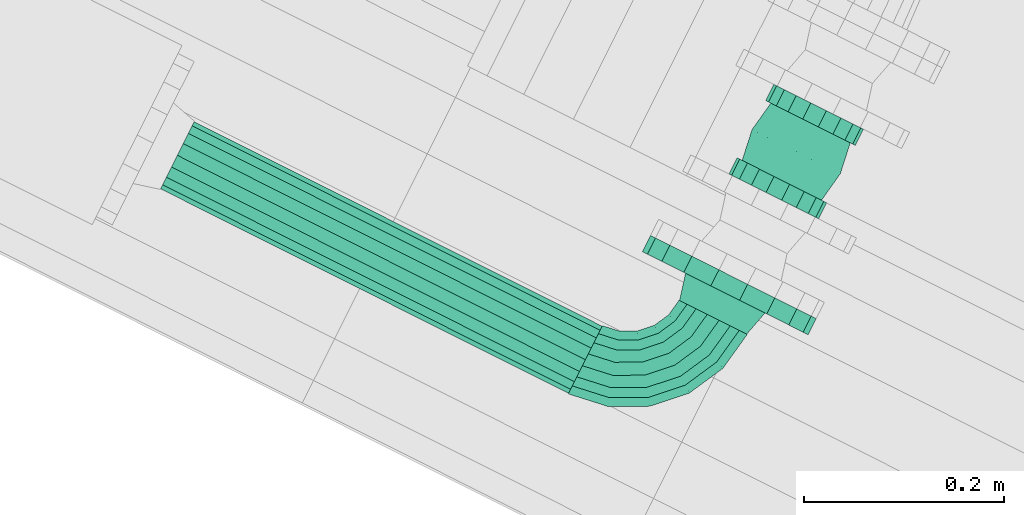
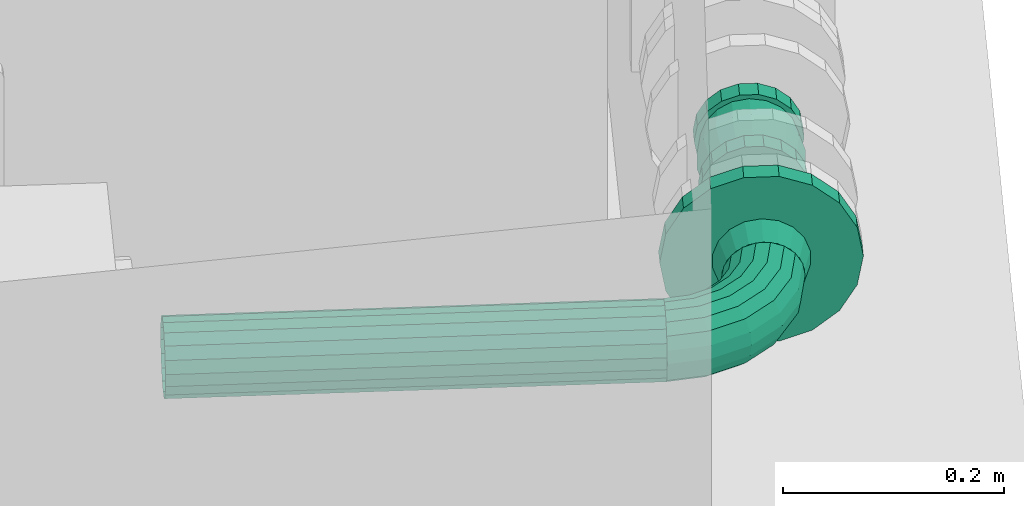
# One storey, part 55 of 206: 3 flow segments, 1 flow fitting.
"""IFC2X3 building model written with IfcOpenShell, lengths in metres."""

from ifc_helpers import new_model, si_unit, derived_unit, direction, frame, origin, place, context, subcontext, project, spatial, face_set, surface_model, source, transform, mapped, material, type_object, type_shapes, element, save


model = new_model("IFC2X3")

# Units and contexts
model_context = context("Model", 3, precision=5.2338327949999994e-05, world=origin(), true_north=direction((0.0, 1.0)))
body_context = subcontext(model_context, "Body", "Model", "MODEL_VIEW")
ifc_project = project(units=[si_unit("LENGTHUNIT", "METRE"), si_unit("AREAUNIT", "SQUARE_METRE"), si_unit("VOLUMEUNIT", "CUBIC_METRE"), si_unit("MASSUNIT", "GRAM", prefix="KILO"), si_unit("PLANEANGLEUNIT", "RADIAN"), derived_unit("THERMALTRANSMITTANCEUNIT", [(si_unit("MASSUNIT", "GRAM", prefix="KILO"), 1), (si_unit("THERMODYNAMICTEMPERATUREUNIT", "KELVIN"), -1), (si_unit("TIMEUNIT", "SECOND"), -3)])], contexts=[model_context])

# Site, building, storey
site_placement = place(None, frame((0.0, 0.0, 0.0), z_axis=(0.0, 0.0, 1.0), x_axis=(0.8939966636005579, -0.4480736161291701, 0.0)))
site = spatial("IfcSite", under=ifc_project, at=site_placement, Name="Default", CompositionType="ELEMENT")
building_placement = place(site_placement, origin())
building = spatial("IfcBuilding", under=site, at=building_placement, CompositionType="ELEMENT")
storey_placement = place(building_placement, origin())
storey = spatial("IfcBuildingStorey", under=building, at=storey_placement, Name="Erdgeschoss", CompositionType="ELEMENT", Elevation=0.0)

# Flow segment
ifc_material = material(Name="IfcSurfaceStyle #352577")
distribution_element_type_1 = type_object("IfcDistributionElementType", Name="Rohrbogen 604500:Rohrbogen 604500", material=ifc_material)
shared_shape_1 = source(origin(), body_context, "Body", "SurfaceModel", [
    surface_model("IfcFaceBasedSurfaceModel", [(27.483692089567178, 4.922958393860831, 0.869999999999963), (27.481397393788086, 4.92295839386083, 0.8830138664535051), (27.474997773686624, 4.882552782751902, 0.8830138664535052), (27.477180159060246, 4.881843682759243, 0.869999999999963), (27.456425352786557, 4.846102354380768, 0.8830138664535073), (27.45828180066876, 4.844753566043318, 0.8699999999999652), (27.427498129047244, 4.817175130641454, 0.8830138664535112), (27.42884691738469, 4.815318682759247, 0.8699999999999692), (27.39104770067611, 4.798602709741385, 0.8830138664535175), (27.391756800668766, 4.796420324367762, 0.8699999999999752), (27.350642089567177, 4.7922030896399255, 0.8830138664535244), (27.350642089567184, 4.7899083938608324, 0.8699999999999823), (27.474790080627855, 4.92295839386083, 0.8944580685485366), (27.468713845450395, 4.884594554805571, 0.8944580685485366), (27.45107992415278, 4.849986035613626, 0.8944580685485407), (27.423614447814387, 4.822520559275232, 0.8944580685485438), (27.38900592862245, 4.804886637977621, 0.8944580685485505), (27.350642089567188, 4.798810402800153, 0.8944580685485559), (27.464667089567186, 4.922958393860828, 0.9029522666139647), (27.45908630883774, 4.887722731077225, 0.9029522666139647), (27.44289025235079, 4.855936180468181, 0.9029522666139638), (27.41766430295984, 4.8307102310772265, 0.902952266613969), (27.385877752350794, 4.814514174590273, 0.902952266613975), (27.350642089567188, 4.808933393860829, 0.9029522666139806), (27.452249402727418, 4.922958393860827, 0.9074719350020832), (27.447276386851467, 4.891560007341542, 0.9074719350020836), (27.43284413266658, 4.863235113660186, 0.9074719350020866), (27.41036536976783, 4.840756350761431, 0.9074719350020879), (27.382040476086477, 4.826324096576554, 0.9074719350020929), (27.35064208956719, 4.821351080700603, 0.9074719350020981), (27.43903477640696, 4.922958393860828, 0.907471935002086), (27.43470853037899, 4.895643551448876, 0.9074719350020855), (27.422153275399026, 4.871002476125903, 0.9074719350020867), (27.402598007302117, 4.851447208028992, 0.9074719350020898), (27.377956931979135, 4.838891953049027, 0.9074719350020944), (27.35064208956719, 4.8345657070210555, 0.9074719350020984), (27.426617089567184, 4.92295839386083, 0.9029522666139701), (27.422898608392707, 4.899480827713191, 0.9029522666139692), (27.41210715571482, 4.878301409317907, 0.9029522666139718), (27.395299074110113, 4.861493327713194, 0.9029522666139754), (27.37411965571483, 4.850701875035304, 0.9029522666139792), (27.35064208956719, 4.8469833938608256, 0.9029522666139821), (27.416494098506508, 4.922958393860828, 0.8944580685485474), (27.413271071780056, 4.902609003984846, 0.8944580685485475), (27.403917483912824, 4.884251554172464, 0.8944580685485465), (27.389348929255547, 4.86968299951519, 0.8944580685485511), (27.370991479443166, 4.860329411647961, 0.8944580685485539), (27.350642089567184, 4.857106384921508, 0.8944580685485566), (27.409886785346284, 4.92295839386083, 0.8830138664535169), (27.406987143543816, 4.9046507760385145, 0.8830138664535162), (27.398572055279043, 4.888135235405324, 0.8830138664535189), (27.385465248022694, 4.87502842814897, 0.883013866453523), (27.3689497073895, 4.866613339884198, 0.8830138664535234), (27.350642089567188, 4.863713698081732, 0.8830138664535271), (27.407592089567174, 4.922958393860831, 0.8699999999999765), (27.404804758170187, 4.905359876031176, 0.8699999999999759), (27.396715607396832, 4.889484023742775, 0.8699999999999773), (27.384116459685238, 4.876884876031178, 0.8699999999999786), (27.36824060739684, 4.868795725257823, 0.8699999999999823), (27.350642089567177, 4.866008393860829, 0.8699999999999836), (27.409886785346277, 4.92295839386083, 0.8569861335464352), (27.406987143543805, 4.904650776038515, 0.8569861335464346), (27.39857205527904, 4.888135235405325, 0.8569861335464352), (27.385465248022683, 4.875028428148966, 0.8569861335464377), (27.368949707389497, 4.866613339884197, 0.8569861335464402), (27.350642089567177, 4.863713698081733, 0.8569861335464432), (27.416494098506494, 4.92295839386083, 0.8455419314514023), (27.41327107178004, 4.902609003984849, 0.8455419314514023), (27.40391748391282, 4.884251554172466, 0.8455419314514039), (27.38934892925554, 4.86968299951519, 0.8455419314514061), (27.37099147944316, 4.860329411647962, 0.8455419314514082), (27.350642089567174, 4.85710638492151, 0.8455419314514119), (27.426617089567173, 4.922958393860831, 0.8370477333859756), (27.422898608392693, 4.899480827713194, 0.8370477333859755), (27.412107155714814, 4.87830140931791, 0.8370477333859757), (27.3952990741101, 4.861493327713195, 0.8370477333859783), (27.374119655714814, 4.8507018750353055, 0.8370477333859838), (27.350642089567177, 4.846983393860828, 0.8370477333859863), (27.439034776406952, 4.92295839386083, 0.8325280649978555), (27.434708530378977, 4.8956435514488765, 0.8325280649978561), (27.42215327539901, 4.871002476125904, 0.8325280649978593), (27.4025980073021, 4.851447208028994, 0.8325280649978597), (27.377956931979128, 4.838891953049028, 0.8325280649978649), (27.350642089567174, 4.834565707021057, 0.8325280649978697), (27.4522494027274, 4.92295839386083, 0.8325280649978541), (27.44727638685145, 4.891560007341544, 0.8325280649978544), (27.432844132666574, 4.8632351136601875, 0.8325280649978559), (27.410365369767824, 4.840756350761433, 0.832528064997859), (27.382040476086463, 4.826324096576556, 0.8325280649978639), (27.350642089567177, 4.8213510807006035, 0.8325280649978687), (27.464667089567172, 4.92295839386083, 0.8370477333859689), (27.459086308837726, 4.887722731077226, 0.8370477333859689), (27.442890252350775, 4.855936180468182, 0.8370477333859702), (27.417664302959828, 4.830710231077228, 0.8370477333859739), (27.38587775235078, 4.8145141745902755, 0.8370477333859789), (27.350642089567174, 4.808933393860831, 0.837047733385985), (27.47479008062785, 4.922958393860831, 0.8455419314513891), (27.46871384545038, 4.884594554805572, 0.8455419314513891), (27.451079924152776, 4.849986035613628, 0.8455419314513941), (27.42361444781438, 4.822520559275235, 0.8455419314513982), (27.389005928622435, 4.804886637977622, 0.8455419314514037), (27.350642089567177, 4.798810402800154, 0.8455419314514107), (27.48139739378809, 4.922958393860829, 0.8569861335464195), (27.474997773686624, 4.882552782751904, 0.8569861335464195), (27.456425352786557, 4.846102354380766, 0.856986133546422), (27.427498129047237, 4.817175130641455, 0.8569861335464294), (27.391047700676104, 4.7986027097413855, 0.8569861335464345), (27.350642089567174, 4.792203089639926, 0.8569861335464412)], [face_set([[[0, 1, 2, 3]], [[3, 2, 4, 5]], [[5, 4, 6, 7]], [[7, 6, 8, 9]], [[9, 8, 10, 11]], [[1, 12, 13, 2]], [[2, 13, 14, 4]], [[4, 14, 15, 6]], [[6, 15, 16, 8]], [[8, 16, 17, 10]], [[12, 18, 19, 13]], [[13, 19, 20, 14]], [[14, 20, 21, 15]], [[15, 21, 22, 16]], [[16, 22, 23, 17]], [[18, 24, 25, 19]], [[19, 25, 26, 20]], [[20, 26, 27, 21]], [[21, 27, 28, 22]], [[22, 28, 29, 23]], [[24, 30, 31, 25]], [[25, 31, 32, 26]], [[26, 32, 33, 27]], [[27, 33, 34, 28]], [[28, 34, 35, 29]], [[30, 36, 37, 31]], [[31, 37, 38, 32]], [[32, 38, 39, 33]], [[33, 39, 40, 34]], [[34, 40, 41, 35]], [[36, 42, 43, 37]], [[37, 43, 44, 38]], [[38, 44, 45, 39]], [[39, 45, 46, 40]], [[40, 46, 47, 41]], [[42, 48, 49, 43]], [[43, 49, 50, 44]], [[44, 50, 51, 45]], [[45, 51, 52, 46]], [[46, 52, 53, 47]], [[48, 54, 55, 49]], [[49, 55, 56, 50]], [[50, 56, 57, 51]], [[51, 57, 58, 52]], [[52, 58, 59, 53]], [[54, 60, 61, 55]], [[55, 61, 62, 56]], [[56, 62, 63, 57]], [[57, 63, 64, 58]], [[58, 64, 65, 59]], [[60, 66, 67, 61]], [[61, 67, 68, 62]], [[62, 68, 69, 63]], [[63, 69, 70, 64]], [[64, 70, 71, 65]], [[66, 72, 73, 67]], [[67, 73, 74, 68]], [[68, 74, 75, 69]], [[69, 75, 76, 70]], [[70, 76, 77, 71]], [[72, 78, 79, 73]], [[73, 79, 80, 74]], [[74, 80, 81, 75]], [[75, 81, 82, 76]], [[76, 82, 83, 77]], [[78, 84, 85, 79]], [[79, 85, 86, 80]], [[80, 86, 87, 81]], [[81, 87, 88, 82]], [[82, 88, 89, 83]], [[84, 90, 91, 85]], [[85, 91, 92, 86]], [[86, 92, 93, 87]], [[87, 93, 94, 88]], [[88, 94, 95, 89]], [[90, 96, 97, 91]], [[91, 97, 98, 92]], [[92, 98, 99, 93]], [[93, 99, 100, 94]], [[94, 100, 101, 95]], [[96, 102, 103, 97]], [[97, 103, 104, 98]], [[98, 104, 105, 99]], [[99, 105, 106, 100]], [[100, 106, 107, 101]], [[102, 0, 3, 103]], [[103, 3, 5, 104]], [[104, 5, 7, 105]], [[105, 7, 9, 106]], [[106, 9, 11, 107]]])]),
])
type_shapes(distribution_element_type_1, [shared_shape_1])
flow_segment_1_placement = place(storey_placement, origin())
element("IfcFlowSegment", 1, at=flow_segment_1_placement, inside=storey, type_object=distribution_element_type_1, material=ifc_material, Name="Rohrbogen", ObjectType="Rohrbogen", context=body_context, shape_type="MappedRepresentation", body=[
    mapped(shared_shape_1, transform((0.0, 0.0, 0.0), scale=1.0)),
])

# Flow fitting
distribution_element_type_2 = type_object("IfcDistributionElementType", Name="Flansch 604569:Flansch 604569", material=ifc_material)
shared_shape_2 = source(origin(), body_context, "Body", "SurfaceModel", [
    surface_model("IfcFaceBasedSurfaceModel", [(27.445642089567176, 4.922958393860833, 0.9080499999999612), (27.458655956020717, 4.92295839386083, 0.9057553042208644), (27.46103299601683, 4.949958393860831, 0.912286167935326), (27.445642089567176, 4.949958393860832, 0.91499999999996), (27.47010015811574, 4.92295839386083, 0.8991479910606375), (27.474567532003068, 4.949958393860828, 0.9044719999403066), (27.478594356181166, 4.92295839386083, 0.8890249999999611), (27.484613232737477, 4.949958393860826, 0.8924999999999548), (27.48311402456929, 4.922958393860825, 0.8766073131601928), (27.489958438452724, 4.949958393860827, 0.8778141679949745), (27.483114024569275, 4.922958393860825, 0.8633926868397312), (27.48995843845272, 4.949958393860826, 0.8621858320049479), (27.478594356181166, 4.922958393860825, 0.8509749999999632), (27.484613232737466, 4.949958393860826, 0.8474999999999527), (27.47010015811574, 4.922958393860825, 0.8408520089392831), (27.474567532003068, 4.949958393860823, 0.835528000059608), (27.458655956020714, 4.922958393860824, 0.8342446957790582), (27.461032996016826, 4.949958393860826, 0.8277138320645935), (27.445642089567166, 4.922958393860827, 0.8319499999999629), (27.445642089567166, 4.949958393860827, 0.82499999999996), (27.43262822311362, 4.922958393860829, 0.8342446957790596), (27.43025118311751, 4.949958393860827, 0.8277138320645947), (27.421184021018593, 4.922958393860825, 0.8408520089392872), (27.416716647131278, 4.949958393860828, 0.8355280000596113), (27.412689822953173, 4.922958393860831, 0.8509749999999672), (27.406670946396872, 4.949958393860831, 0.847499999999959), (27.40817015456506, 4.922958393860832, 0.8633926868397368), (27.401325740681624, 4.949958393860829, 0.8621858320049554), (27.408170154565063, 4.922958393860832, 0.8766073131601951), (27.401325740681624, 4.949958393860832, 0.8778141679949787), (27.412689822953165, 4.922958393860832, 0.8890249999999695), (27.406670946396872, 4.949958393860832, 0.8924999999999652), (27.421184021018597, 4.922958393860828, 0.8991479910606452), (27.416716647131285, 4.9499583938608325, 0.9044719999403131), (27.432628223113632, 4.922958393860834, 0.9057553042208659), (27.430251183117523, 4.949958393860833, 0.912286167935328), (27.538142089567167, 4.9499583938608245, 0.8699999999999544), (27.53256365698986, 4.949958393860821, 0.8383631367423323), (27.53256365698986, 4.967958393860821, 0.8383631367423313), (27.538142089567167, 4.9679583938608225, 0.8699999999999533), (27.516501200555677, 4.949958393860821, 0.8105421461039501), (27.516501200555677, 4.967958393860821, 0.8105421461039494), (27.491892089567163, 4.949958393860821, 0.7898926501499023), (27.49189208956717, 4.96795839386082, 0.7898926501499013), (27.461704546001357, 4.949958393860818, 0.7789052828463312), (27.461704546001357, 4.967958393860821, 0.7789052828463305), (27.42957963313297, 4.949958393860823, 0.7789052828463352), (27.42957963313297, 4.9679583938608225, 0.7789052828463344), (27.399392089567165, 4.949958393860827, 0.7898926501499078), (27.399392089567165, 4.967958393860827, 0.7898926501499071), (27.374782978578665, 4.949958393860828, 0.8105421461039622), (27.374782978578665, 4.967958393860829, 0.8105421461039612), (27.358720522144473, 4.949958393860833, 0.8383631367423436), (27.358720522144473, 4.967958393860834, 0.838363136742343), (27.353142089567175, 4.949958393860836, 0.8699999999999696), (27.35314208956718, 4.967958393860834, 0.8699999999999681), (27.358720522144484, 4.949958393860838, 0.9016368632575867), (27.358720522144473, 4.9679583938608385, 0.9016368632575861), (27.37478297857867, 4.949958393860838, 0.9294578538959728), (27.37478297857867, 4.9679583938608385, 0.929457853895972), (27.39939208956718, 4.949958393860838, 0.9501073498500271), (27.399392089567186, 4.967958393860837, 0.9501073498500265), (27.42957963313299, 4.949958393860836, 0.9610947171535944), (27.42957963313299, 4.967958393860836, 0.9610947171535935), (27.461704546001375, 4.949958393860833, 0.9610947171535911), (27.461704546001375, 4.967958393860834, 0.9610947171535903), (27.49189208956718, 4.949958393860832, 0.9501073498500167), (27.49189208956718, 4.967958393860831, 0.9501073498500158), (27.516501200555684, 4.949958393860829, 0.9294578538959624), (27.516501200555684, 4.96795839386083, 0.9294578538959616), (27.532563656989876, 4.9499583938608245, 0.9016368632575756), (27.532563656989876, 4.967958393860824, 0.9016368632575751), (27.445642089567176, 4.949958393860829, 0.8699999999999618)], [face_set([[[0, 1, 2, 3]], [[1, 4, 5, 2]], [[4, 6, 7, 5]], [[6, 8, 9, 7]], [[8, 10, 11, 9]], [[10, 12, 13, 11]], [[12, 14, 15, 13]], [[14, 16, 17, 15]], [[16, 18, 19, 17]], [[18, 20, 21, 19]], [[20, 22, 23, 21]], [[22, 24, 25, 23]], [[24, 26, 27, 25]], [[26, 28, 29, 27]], [[28, 30, 31, 29]], [[30, 32, 33, 31]], [[32, 34, 35, 33]], [[34, 0, 3, 35]], [[36, 37, 38, 39]], [[37, 40, 41, 38]], [[40, 42, 43, 41]], [[42, 44, 45, 43]], [[44, 46, 47, 45]], [[46, 48, 49, 47]], [[48, 50, 51, 49]], [[50, 52, 53, 51]], [[52, 54, 55, 53]], [[54, 56, 57, 55]], [[56, 58, 59, 57]], [[58, 60, 61, 59]], [[60, 62, 63, 61]], [[62, 64, 65, 63]], [[64, 66, 67, 65]], [[66, 68, 69, 67]], [[68, 70, 71, 69]], [[70, 36, 39, 71]], [[72, 37, 36]], [[72, 40, 37]], [[72, 42, 40]], [[72, 44, 42]], [[72, 46, 44]], [[72, 48, 46]], [[72, 50, 48]], [[72, 52, 50]], [[72, 54, 52]], [[72, 56, 54]], [[72, 58, 56]], [[72, 60, 58]], [[72, 62, 60]], [[72, 64, 62]], [[72, 66, 64]], [[72, 68, 66]], [[72, 70, 68]], [[72, 36, 70]]])]),
])
type_shapes(distribution_element_type_2, [shared_shape_2])
flow_fitting_placement = place(storey_placement, origin())
element("IfcFlowFitting", 2, at=flow_fitting_placement, inside=storey, type_object=distribution_element_type_2, material=ifc_material, Name="Flansch", ObjectType="Flansch", context=body_context, shape_type="MappedRepresentation", body=[
    mapped(shared_shape_2, transform((0.0, 0.0, 0.0), scale=1.0)),
])

# Flow segments
distribution_element_type_3 = type_object("IfcDistributionElementType", Name="Gummikompensator 604661:Gummikompensator 604661", material=ifc_material)
shared_shape_3 = source(origin(), body_context, "Body", "SurfaceModel", [
    surface_model("IfcFaceBasedSurfaceModel", [(27.395642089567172, 5.15795839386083, 0.8699999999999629), (27.398657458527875, 5.15795839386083, 0.8528989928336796), (27.398657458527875, 5.13995839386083, 0.8528989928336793), (27.395642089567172, 5.13995839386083, 0.8699999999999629), (27.407339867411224, 5.15795839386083, 0.8378606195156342), (27.407339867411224, 5.13995839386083, 0.8378606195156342), (27.42064208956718, 5.15795839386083, 0.8266987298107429), (27.42064208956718, 5.13995839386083, 0.8266987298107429), (27.43695968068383, 5.15795839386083, 0.8207596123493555), (27.43695968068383, 5.13995839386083, 0.8207596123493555), (27.454324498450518, 5.15795839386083, 0.820759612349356), (27.454324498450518, 5.13995839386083, 0.820759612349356), (27.47064208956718, 5.15795839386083, 0.8266987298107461), (27.47064208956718, 5.13995839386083, 0.8266987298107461), (27.483944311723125, 5.15795839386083, 0.837860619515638), (27.483944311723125, 5.13995839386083, 0.837860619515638), (27.492626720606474, 5.15795839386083, 0.8528989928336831), (27.492626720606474, 5.13995839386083, 0.8528989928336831), (27.495642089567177, 5.15795839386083, 0.8699999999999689), (27.495642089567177, 5.13995839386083, 0.8699999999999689), (27.492626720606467, 5.15795839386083, 0.8871010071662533), (27.492626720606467, 5.13995839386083, 0.8871010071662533), (27.48394431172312, 5.15795839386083, 0.9021393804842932), (27.48394431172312, 5.13995839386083, 0.9021393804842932), (27.470642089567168, 5.15795839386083, 0.9133012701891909), (27.470642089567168, 5.13995839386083, 0.9133012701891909), (27.454324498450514, 5.15795839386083, 0.9192403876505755), (27.454324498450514, 5.13995839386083, 0.9192403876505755), (27.436959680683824, 5.15795839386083, 0.9192403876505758), (27.436959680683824, 5.13995839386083, 0.9192403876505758), (27.420642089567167, 5.15795839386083, 0.9133012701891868), (27.420642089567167, 5.13995839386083, 0.9133012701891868), (27.407339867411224, 5.15795839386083, 0.9021393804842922), (27.407339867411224, 5.13995839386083, 0.9021393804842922), (27.398657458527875, 5.15795839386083, 0.8871010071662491), (27.398657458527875, 5.13995839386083, 0.8871010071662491), (27.445642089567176, 5.15795839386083, 0.8699999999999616), (27.445642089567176, 5.139958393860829, 0.8699999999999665), (27.44564208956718, 5.13995839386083, 0.8249999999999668), (27.46103299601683, 5.13995839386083, 0.8277138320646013), (27.46274309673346, 5.10795839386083, 0.823015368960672), (27.445642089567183, 5.10795839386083, 0.8199999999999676), (27.474567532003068, 5.13995839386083, 0.8355280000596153), (27.477781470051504, 5.10795839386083, 0.8316977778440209), (27.484613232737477, 5.13995839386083, 0.8474999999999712), (27.488943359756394, 5.10795839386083, 0.844999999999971), (27.489958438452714, 5.13995839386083, 0.8621858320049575), (27.49488247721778, 5.10795839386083, 0.8613175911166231), (27.489958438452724, 5.13995839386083, 0.8778141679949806), (27.494882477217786, 5.10795839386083, 0.8786824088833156), (27.484613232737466, 5.13995839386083, 0.8924999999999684), (27.488943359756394, 5.10795839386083, 0.8949999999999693), (27.474567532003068, 5.13995839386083, 0.9044719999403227), (27.477781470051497, 5.10795839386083, 0.9083022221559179), (27.461032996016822, 5.13995839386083, 0.9122861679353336), (27.462743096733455, 5.10795839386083, 0.9169846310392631), (27.44564208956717, 5.13995839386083, 0.9149999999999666), (27.445642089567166, 5.10795839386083, 0.9199999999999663), (27.430251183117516, 5.13995839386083, 0.9122861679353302), (27.42854108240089, 5.10795839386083, 0.9169846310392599), (27.41671664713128, 5.13995839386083, 0.9044719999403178), (27.413502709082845, 5.10795839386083, 0.9083022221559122), (27.40667094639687, 5.13995839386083, 0.8924999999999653), (27.402340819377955, 5.10795839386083, 0.8949999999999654), (27.401325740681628, 5.139958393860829, 0.8778141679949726), (27.39640170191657, 5.107958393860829, 0.8786824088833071), (27.401325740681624, 5.13995839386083, 0.8621858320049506), (27.396401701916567, 5.10795839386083, 0.8613175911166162), (27.406670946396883, 5.13995839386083, 0.847499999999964), (27.402340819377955, 5.10795839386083, 0.8449999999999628), (27.41671664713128, 5.13995839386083, 0.8355280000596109), (27.413502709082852, 5.10795839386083, 0.831697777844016), (27.430251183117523, 5.13995839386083, 0.8277138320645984), (27.428541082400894, 5.10795839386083, 0.8230153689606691), (27.46103299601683, 5.07595839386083, 0.8277138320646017), (27.44564208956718, 5.07595839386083, 0.8249999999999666), (27.474567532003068, 5.07595839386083, 0.8355280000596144), (27.484613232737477, 5.07595839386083, 0.8474999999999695), (27.48995843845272, 5.07595839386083, 0.8621858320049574), (27.489958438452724, 5.07595839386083, 0.8778141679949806), (27.484613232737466, 5.07595839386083, 0.8924999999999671), (27.474567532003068, 5.07595839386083, 0.9044719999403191), (27.461032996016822, 5.07595839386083, 0.9122861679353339), (27.44564208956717, 5.07595839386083, 0.9149999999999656), (27.430251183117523, 5.07595839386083, 0.9122861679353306), (27.41671664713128, 5.07595839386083, 0.9044719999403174), (27.40667094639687, 5.07595839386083, 0.8924999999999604), (27.40132574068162, 5.07595839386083, 0.8778141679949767), (27.401325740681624, 5.07595839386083, 0.862185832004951), (27.406670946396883, 5.07595839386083, 0.8474999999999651), (27.41671664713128, 5.07595839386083, 0.8355280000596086), (27.430251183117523, 5.07595839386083, 0.8277138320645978), (27.395642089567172, 5.07595839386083, 0.8699999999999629), (27.398657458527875, 5.07595839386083, 0.8528989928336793), (27.398657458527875, 5.0579583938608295, 0.8528989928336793), (27.395642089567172, 5.0579583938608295, 0.8699999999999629), (27.407339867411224, 5.07595839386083, 0.8378606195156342), (27.407339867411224, 5.0579583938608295, 0.8378606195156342), (27.42064208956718, 5.07595839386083, 0.8266987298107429), (27.42064208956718, 5.0579583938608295, 0.8266987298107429), (27.43695968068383, 5.07595839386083, 0.8207596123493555), (27.43695968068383, 5.0579583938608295, 0.8207596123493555), (27.454324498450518, 5.07595839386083, 0.820759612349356), (27.454324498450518, 5.0579583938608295, 0.820759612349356), (27.47064208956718, 5.07595839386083, 0.8266987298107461), (27.47064208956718, 5.0579583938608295, 0.8266987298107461), (27.483944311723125, 5.07595839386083, 0.837860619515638), (27.483944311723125, 5.0579583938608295, 0.837860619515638), (27.492626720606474, 5.07595839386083, 0.8528989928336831), (27.492626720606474, 5.0579583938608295, 0.8528989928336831), (27.495642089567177, 5.07595839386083, 0.8699999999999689), (27.495642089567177, 5.0579583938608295, 0.8699999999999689), (27.492626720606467, 5.07595839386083, 0.8871010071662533), (27.492626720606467, 5.0579583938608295, 0.8871010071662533), (27.48394431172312, 5.07595839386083, 0.9021393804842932), (27.48394431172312, 5.0579583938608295, 0.9021393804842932), (27.470642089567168, 5.07595839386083, 0.9133012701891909), (27.470642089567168, 5.0579583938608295, 0.9133012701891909), (27.454324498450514, 5.07595839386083, 0.9192403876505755), (27.454324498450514, 5.0579583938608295, 0.9192403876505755), (27.436959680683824, 5.07595839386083, 0.9192403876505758), (27.436959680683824, 5.0579583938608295, 0.9192403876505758), (27.420642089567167, 5.07595839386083, 0.9133012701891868), (27.420642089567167, 5.0579583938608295, 0.9133012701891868), (27.407339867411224, 5.07595839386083, 0.9021393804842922), (27.407339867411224, 5.0579583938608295, 0.9021393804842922), (27.398657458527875, 5.07595839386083, 0.8871010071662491), (27.398657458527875, 5.0579583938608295, 0.8871010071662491), (27.445642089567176, 5.07595839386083, 0.8699999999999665), (27.445642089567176, 5.0579583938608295, 0.8699999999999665)], [face_set([[[0, 1, 2, 3]], [[1, 4, 5, 2]], [[4, 6, 7, 5]], [[6, 8, 9, 7]], [[8, 10, 11, 9]], [[10, 12, 13, 11]], [[12, 14, 15, 13]], [[14, 16, 17, 15]], [[16, 18, 19, 17]], [[18, 20, 21, 19]], [[20, 22, 23, 21]], [[22, 24, 25, 23]], [[24, 26, 27, 25]], [[26, 28, 29, 27]], [[28, 30, 31, 29]], [[30, 32, 33, 31]], [[32, 34, 35, 33]], [[34, 0, 3, 35]], [[36, 1, 0]], [[36, 4, 1]], [[36, 6, 4]], [[36, 8, 6]], [[36, 10, 8]], [[36, 12, 10]], [[36, 14, 12]], [[36, 16, 14]], [[36, 18, 16]], [[36, 20, 18]], [[36, 22, 20]], [[36, 24, 22]], [[36, 26, 24]], [[36, 28, 26]], [[36, 30, 28]], [[36, 32, 30]], [[36, 34, 32]], [[36, 0, 34]], [[37, 35, 3]], [[37, 33, 35]], [[37, 31, 33]], [[37, 29, 31]], [[37, 27, 29]], [[37, 25, 27]], [[37, 23, 25]], [[37, 21, 23]], [[37, 19, 21]], [[37, 17, 19]], [[37, 15, 17]], [[37, 13, 15]], [[37, 11, 13]], [[37, 9, 11]], [[37, 7, 9]], [[37, 5, 7]], [[37, 2, 5]], [[37, 3, 2]], [[38, 39, 40, 41]], [[39, 42, 43, 40]], [[42, 44, 45, 43]], [[44, 46, 47, 45]], [[46, 48, 49, 47]], [[48, 50, 51, 49]], [[50, 52, 53, 51]], [[52, 54, 55, 53]], [[54, 56, 57, 55]], [[56, 58, 59, 57]], [[58, 60, 61, 59]], [[60, 62, 63, 61]], [[62, 64, 65, 63]], [[64, 66, 67, 65]], [[66, 68, 69, 67]], [[68, 70, 71, 69]], [[70, 72, 73, 71]], [[72, 38, 41, 73]], [[41, 40, 74, 75]], [[40, 43, 76, 74]], [[43, 45, 77, 76]], [[45, 47, 78, 77]], [[47, 49, 79, 78]], [[49, 51, 80, 79]], [[51, 53, 81, 80]], [[53, 55, 82, 81]], [[55, 57, 83, 82]], [[57, 59, 84, 83]], [[59, 61, 85, 84]], [[61, 63, 86, 85]], [[63, 65, 87, 86]], [[65, 67, 88, 87]], [[67, 69, 89, 88]], [[69, 71, 90, 89]], [[71, 73, 91, 90]], [[73, 41, 75, 91]], [[92, 93, 94, 95]], [[93, 96, 97, 94]], [[96, 98, 99, 97]], [[98, 100, 101, 99]], [[100, 102, 103, 101]], [[102, 104, 105, 103]], [[104, 106, 107, 105]], [[106, 108, 109, 107]], [[108, 110, 111, 109]], [[110, 112, 113, 111]], [[112, 114, 115, 113]], [[114, 116, 117, 115]], [[116, 118, 119, 117]], [[118, 120, 121, 119]], [[120, 122, 123, 121]], [[122, 124, 125, 123]], [[124, 126, 127, 125]], [[126, 92, 95, 127]], [[128, 93, 92]], [[128, 96, 93]], [[128, 98, 96]], [[128, 100, 98]], [[128, 102, 100]], [[128, 104, 102]], [[128, 106, 104]], [[128, 108, 106]], [[128, 110, 108]], [[128, 112, 110]], [[128, 114, 112]], [[128, 116, 114]], [[128, 118, 116]], [[128, 120, 118]], [[128, 122, 120]], [[128, 124, 122]], [[128, 126, 124]], [[128, 92, 126]], [[129, 127, 95]], [[129, 125, 127]], [[129, 123, 125]], [[129, 121, 123]], [[129, 119, 121]], [[129, 117, 119]], [[129, 115, 117]], [[129, 113, 115]], [[129, 111, 113]], [[129, 109, 111]], [[129, 107, 109]], [[129, 105, 107]], [[129, 103, 105]], [[129, 101, 103]], [[129, 99, 101]], [[129, 97, 99]], [[129, 94, 97]], [[129, 95, 94]]])]),
])
type_shapes(distribution_element_type_3, [shared_shape_3])
flow_segment_2_placement = place(storey_placement, origin())
element("IfcFlowSegment", 3, at=flow_segment_2_placement, inside=storey, type_object=distribution_element_type_3, material=ifc_material, Name="Gummikompensator", ObjectType="Gummikompensator", context=body_context, shape_type="MappedRepresentation", body=[
    mapped(shared_shape_3, transform((0.0, 0.0, 0.0), scale=1.0)),
])
distribution_element_type_4 = type_object("IfcDistributionElementType", Name="Stahlrohr nach DIN 2448 604684:Stahlrohr nach DIN 2448 604684", material=ifc_material)
shared_shape_4 = source(origin(), body_context, "Body", "SurfaceModel", [
    surface_model("IfcFaceBasedSurfaceModel", [(27.350642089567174, 4.827958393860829, 0.908049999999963), (27.350642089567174, 4.840972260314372, 0.9057553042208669), (26.895146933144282, 4.840972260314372, 0.9057553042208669), (26.895146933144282, 4.82795839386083, 0.9080499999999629), (27.350642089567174, 4.8524164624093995, 0.8991479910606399), (26.895146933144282, 4.852416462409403, 0.8991479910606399), (27.350642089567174, 4.860910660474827, 0.8890249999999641), (26.895146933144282, 4.860910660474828, 0.8890249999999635), (27.350642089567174, 4.865430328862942, 0.8766073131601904), (26.895146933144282, 4.865430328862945, 0.8766073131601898), (27.350642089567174, 4.865430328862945, 0.8633926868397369), (26.895146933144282, 4.865430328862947, 0.8633926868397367), (27.350642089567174, 4.860910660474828, 0.850974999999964), (26.895146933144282, 4.860910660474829, 0.8509749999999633), (27.350642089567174, 4.852416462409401, 0.8408520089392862), (26.895146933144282, 4.852416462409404, 0.8408520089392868), (27.350642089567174, 4.840972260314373, 0.8342446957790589), (26.895146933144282, 4.840972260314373, 0.8342446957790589), (27.350642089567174, 4.827958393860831, 0.8319499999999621), (26.895146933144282, 4.827958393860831, 0.8319499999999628), (27.350642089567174, 4.814944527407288, 0.8342446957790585), (26.895146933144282, 4.814944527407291, 0.8342446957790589), (27.350642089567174, 4.803500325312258, 0.8408520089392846), (26.895146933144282, 4.803500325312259, 0.8408520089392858), (27.350642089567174, 4.7950061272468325, 0.8509749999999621), (26.895146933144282, 4.795006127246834, 0.8509749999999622), (27.350642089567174, 4.790486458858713, 0.8633926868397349), (26.895146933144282, 4.790486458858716, 0.8633926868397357), (27.350642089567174, 4.790486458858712, 0.8766073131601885), (26.895146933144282, 4.790486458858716, 0.8766073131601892), (27.350642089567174, 4.79500612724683, 0.8890249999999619), (26.895146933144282, 4.7950061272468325, 0.8890249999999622), (27.350642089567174, 4.803500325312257, 0.899147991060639), (26.895146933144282, 4.803500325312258, 0.8991479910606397), (27.350642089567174, 4.814944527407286, 0.9057553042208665), (26.895146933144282, 4.814944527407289, 0.9057553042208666)], [face_set([[[0, 1, 2, 3]], [[1, 4, 5, 2]], [[4, 6, 7, 5]], [[6, 8, 9, 7]], [[8, 10, 11, 9]], [[10, 12, 13, 11]], [[12, 14, 15, 13]], [[14, 16, 17, 15]], [[16, 18, 19, 17]], [[18, 20, 21, 19]], [[20, 22, 23, 21]], [[22, 24, 25, 23]], [[24, 26, 27, 25]], [[26, 28, 29, 27]], [[28, 30, 31, 29]], [[30, 32, 33, 31]], [[32, 34, 35, 33]], [[34, 0, 3, 35]]])]),
])
type_shapes(distribution_element_type_4, [shared_shape_4])
flow_segment_3_placement = place(storey_placement, origin())
element("IfcFlowSegment", 4, at=flow_segment_3_placement, inside=storey, type_object=distribution_element_type_4, material=ifc_material, Name="Stahlrohr nach DIN 2448", ObjectType="Stahlrohr nach DIN 2448", context=body_context, shape_type="MappedRepresentation", body=[
    mapped(shared_shape_4, transform((0.0, 0.0, 0.0), scale=1.0)),
])

save(model, "model.ifc")
